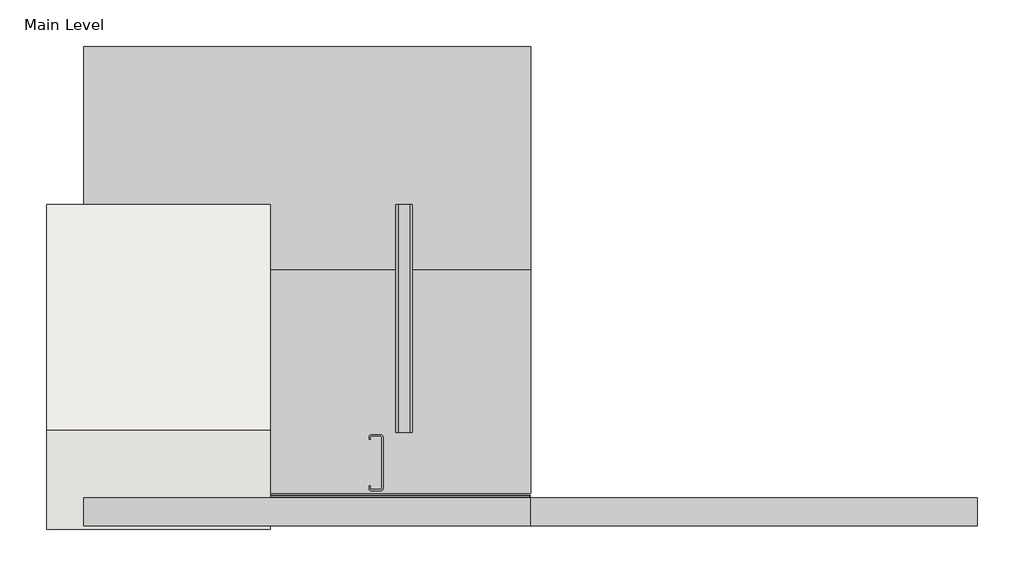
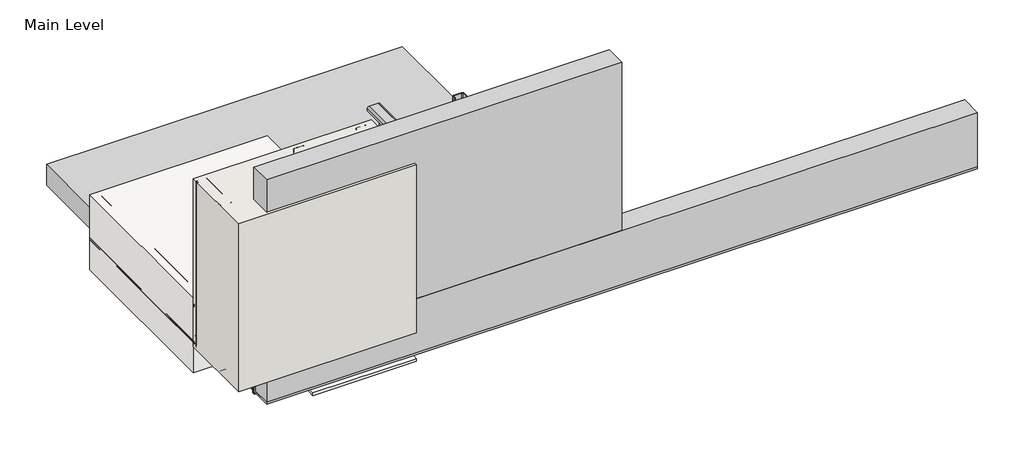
# One storey, incomplete: 13 proxies, 2 coverings, 1 wall.
"""IFC4 building model written with IfcOpenShell, lengths in millimetres."""

from ifc_helpers import new_model, si_unit, frame, origin, origin_with_axes, place, context, project, spatial, polyline, outline, extrude, transform, mapped, element, save
from components import generic_models_61840a3c, generic_models_2e656d56, generic_models_47e8b319, proxy_81afb05a, proxy_e5e434bb, proxy_63d6b373, soffit_box_soffit_box_3929802c, top_adhesive_top_adhesive_2fb88969, wood_blocking_c9818c35, wood_blocking_63bdfc83

model = new_model("IFC4")

# Units and contexts
model_context = context("Model", 3, world=origin())
ifc_project = project(units=[si_unit("LENGTHUNIT", "METRE", prefix="MILLI")], contexts=[model_context])

# Site, building, storey
site = spatial("IfcSite", under=ifc_project)
building = spatial("IfcBuilding", under=site)
storey = spatial("IfcBuildingStorey", under=building, Name="Main Level", Elevation=0.0)

# Proxies
placement = place(None, origin())
generic_models_shape = generic_models_61840a3c(model_context)
element("IfcBuildingElementProxy", 1, Name="CRAi Generic Model Metal Stud Array : CRAi Generic Model Metal Stud Array", ObjectType="CRAi Generic Model Metal Stud Array : CRAi Generic Model Metal Stud Array", at=placement, inside=storey, context=model_context, shape_type="MappedRepresentation", body=[
    mapped(generic_models_shape, transform((26675.0771569, 719.7066297, 15.875), x_axis=(-1.0, 0.0, 0.0), y_axis=(0.0, -1.0, 0.0), z_axis=(0.0, 0.0, 1.0))),
])
element("IfcBuildingElementProxy", 2, Name="CRAi Generic Model Metal Stud Array : CRAi Generic Model Metal Stud Array", ObjectType="CRAi Generic Model Metal Stud Array : CRAi Generic Model Metal Stud Array", at=placement, inside=storey, context=model_context, shape_type="MappedRepresentation", body=[
    mapped(generic_models_shape, transform((27221.1771569, 719.7066297, 15.875), x_axis=(-1.0, 0.0, 0.0), y_axis=(0.0, -1.0, 0.0), z_axis=(0.0, 0.0, 1.0))),
])
generic_models_2_shape = generic_models_2e656d56(model_context)
generic_models_3_shape = generic_models_47e8b319(model_context)
element("IfcBuildingElementProxy", 3, Name="Durabond Generic Soffit Drainage Vent : Durabond Generic Soffit Drainage Vent", ObjectType="Durabond Generic Soffit Drainage Vent : Durabond Generic Soffit Drainage Vent", at=placement, inside=storey, context=model_context, shape_type="MappedRepresentation", body=[
    mapped(generic_models_2_shape, transform((27199.3497774, 626.0441297, -93.6625), x_axis=(1.0, 0.0, 0.0), y_axis=(0.0, 1.0, 0.0), z_axis=(0.0, 0.0, 1.0))),
    mapped(generic_models_3_shape, transform((27199.3497774, 626.0441297, -93.6625), x_axis=(1.0, 0.0, 0.0), y_axis=(0.0, 1.0, 0.0), z_axis=(0.0, 0.0, 1.0))),
])
proxy_shape = proxy_81afb05a(model_context)
element("IfcBuildingElementProxy", 4, Name="Durabond Generic Model Equalite Insulation Board : 3\"", ObjectType="Durabond Generic Model Equalite Insulation Board : 3\"", at=placement, inside=storey, context=model_context, shape_type="MappedRepresentation", body=[
    mapped(proxy_shape, transform((27199.5789273, 624.4566297, 422.275), x_axis=(1.0, 0.0, 0.0), y_axis=(0.0, 0.0, 1.0), z_axis=(0.0, -1.0, 0.0))),
])
element("IfcBuildingElementProxy", 5, Name="Durabond Generic Model Equalite Insulation Board : 3\"", ObjectType="Durabond Generic Model Equalite Insulation Board : 3\"", at=placement, inside=storey, context=model_context, shape_type="MappedRepresentation", body=[
    mapped(proxy_shape, transform((27200.3726773, 941.9566297, -9.525), x_axis=(-1.0, 0.0, 0.0), y_axis=(0.0, 1.0, 0.0), z_axis=(0.0, 0.0, -1.0))),
])
element("IfcBuildingElementProxy", 6, Name="Durabond Generic Model Equalite Insulation Board : 3\"", ObjectType="Durabond Generic Model Equalite Insulation Board : 3\"", at=placement, inside=storey, context=model_context, shape_type="MappedRepresentation", body=[
    mapped(proxy_shape, transform((27200.3726773, 1551.5566297, -9.5089222), x_axis=(-1.0, 0.0, 0.0), y_axis=(0.0, 1.0, 0.0), z_axis=(0.0, 0.0, -1.0))),
])
proxy_2_shape = proxy_e5e434bb(model_context)
element("IfcBuildingElementProxy", 7, Name="Durabond Generic Model Equalite Vent Board : 3\"", ObjectType="Durabond Generic Model Equalite Vent Board : 3\"", at=placement, inside=storey, context=model_context, shape_type="MappedRepresentation", body=[
    mapped(proxy_2_shape, transform((27809.1789273, 624.4566297, 15.875), x_axis=(1.0, 0.0, 0.0), y_axis=(0.0, 0.0, 1.0), z_axis=(0.0, -1.0, 0.0))),
])
proxy_3_shape = proxy_63d6b373(model_context)
element("IfcBuildingElementProxy", 8, Name="Durabond Generic Model Corner 90 Membrane : 4\" Barrier Seam Tape", ObjectType="Durabond Generic Model Corner 90 Membrane : 4\" Barrier Seam Tape", at=placement, inside=storey, context=model_context, shape_type="MappedRepresentation", body=[
    mapped(proxy_3_shape, transform((26514.5726773, 627.6316297, -6.35), x_axis=(0.0, 0.0, -1.0), y_axis=(0.0, 1.0, 0.0), z_axis=(1.0, 0.0, 0.0))),
])
soffit_box_soffit_box_shape = soffit_box_soffit_box_3929802c(model_context)
element("IfcBuildingElementProxy", 9, Name="Soffit Box : Soffit Box", ObjectType="Soffit Box : Soffit Box", at=placement, inside=storey, context=model_context, shape_type="MappedRepresentation", body=[
    mapped(soffit_box_soffit_box_shape, transform((0.0, 0.0, 0.0), x_axis=(1.0, 0.0, 0.0), y_axis=(0.0, 1.0, 0.0), z_axis=(0.0, 0.0, 1.0))),
])
element("IfcBuildingElementProxy", 10, Name="Soffit Box1 : Soffit Box", ObjectType="Soffit Box1 : Soffit Box", at=placement, inside=storey, context=model_context, shape_type="MappedRepresentation", body=[
    mapped(soffit_box_soffit_box_shape, transform((546.1, 0.0, 0.0), x_axis=(1.0, 0.0, 0.0), y_axis=(0.0, 1.0, 0.0), z_axis=(0.0, 0.0, 1.0))),
])
top_adhesive_top_adhesive_shape = top_adhesive_top_adhesive_2fb88969(model_context)
element("IfcBuildingElementProxy", 11, Name="Top Adhesive : Top Adhesive", ObjectType="Top Adhesive : Top Adhesive", at=placement, inside=storey, context=model_context, shape_type="MappedRepresentation", body=[
    mapped(top_adhesive_top_adhesive_shape, transform((0.0, 0.0, 0.0), x_axis=(1.0, 0.0, 0.0), y_axis=(0.0, 1.0, 0.0), z_axis=(0.0, 0.0, 1.0))),
])
wood_blocking_shape = wood_blocking_c9818c35(model_context)
element("IfcBuildingElementProxy", 12, Name="CRAi Generic Model Line Based Metal Framing Track : Wood Blocking", ObjectType="CRAi Generic Model Line Based Metal Framing Track : Wood Blocking", at=placement, inside=storey, context=model_context, shape_type="MappedRepresentation", body=[
    mapped(wood_blocking_shape, transform((26489.1726773, 643.5066297, 9.525), x_axis=(1.0, 0.0, 0.0), y_axis=(0.0, 1.0, 0.0), z_axis=(0.0, 0.0, 1.0))),
])
wood_blocking_2_shape = wood_blocking_63bdfc83(model_context)
element("IfcBuildingElementProxy", 13, Name="CRAi Generic Model Line Based Metal Framing Track : Wood Blocking", ObjectType="CRAi Generic Model Line Based Metal Framing Track : Wood Blocking", at=placement, inside=storey, context=model_context, shape_type="MappedRepresentation", body=[
    mapped(wood_blocking_2_shape, transform((26491.8622441, 795.9066297, 161.925), x_axis=(1.0, 0.0, 0.0), y_axis=(0.0, 0.0, -1.0), z_axis=(0.0, 1.0, 0.0))),
])

# Coverings
element("IfcCovering", 14, ObjectType="Durabond Detail Ceiling Metal Stud (Flexcrete) 2", at=placement, inside=storey, context=model_context, shape_type="SweptSolid", body=[
    extrude(outline(polyline([(27098.7726773, 808.6066297), (26489.1726773, 808.6066297), (26489.1726773, 1424.5566297), (27098.7726773, 1424.5566297), (27098.7726773, 808.6066297)])), frame((0.0, 0.0, -95.25), z_axis=(0.0, 0.0, 1.0), x_axis=(1.0, 0.0, 0.0)), (0.0, 0.0, 1.0), 273.05),
])
element("IfcCovering", 15, ObjectType="Durabond Stucco Lamina", at=placement, inside=storey, context=model_context, shape_type="SweptSolid", body=[
    extrude(outline(polyline([(538.7316297, -92.9108052), (621.2816297, -85.688616), (621.2816297, -95.25), (538.7316297, -102.4721892), (538.7316297, -92.9108052)])), frame((26743.1726773, 0.0, 0.0), z_axis=(1.0, 0.0, 0.0), x_axis=(0.0, 1.0, 0.0)), (0.0, 0.0, 1.0), 355.6),
])

# Wall
element("IfcWall", 16, ObjectType="189mm (7.5”) EIFS Field Applied on Mtl. Stud Layer - 50mm Grooved Insulation Board Metal Stud Wall(AirStop) 2", at=placement, inside=storey, context=model_context, shape_type="SweptSolid", body=[
    extrude(outline(polyline([(27098.7726773, 538.7316297), (26489.1726773, 538.7316297), (26489.1726773, 808.6066297), (27098.7726773, 808.6066297), (27098.7726773, 538.7316297)])), origin_with_axes(), (0.0, 0.0, 1.0), 609.6),
])

save(model, "model.ifc")
